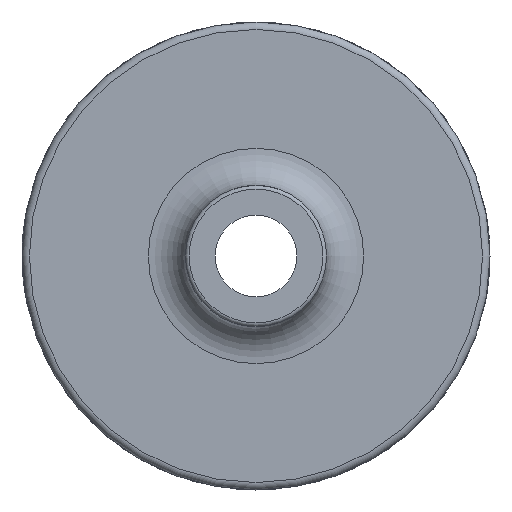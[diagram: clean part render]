
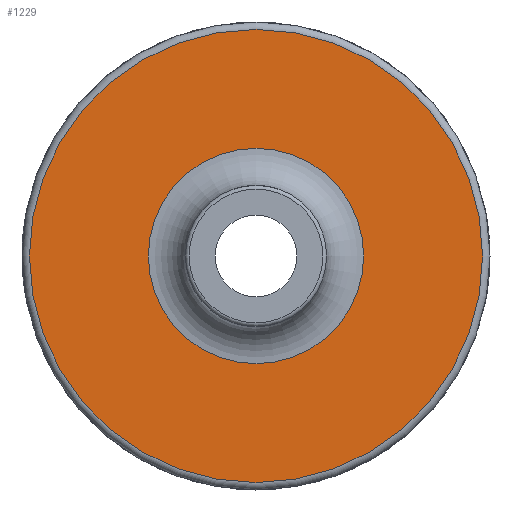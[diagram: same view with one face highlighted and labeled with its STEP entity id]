
A CAD part, front view. The second image highlights one B-rep face of the part: STEP entity #1229.
In plain terms, the highlighted planar face has unit normal (0, -1, 0).
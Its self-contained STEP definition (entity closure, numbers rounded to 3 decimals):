
#53=PLANE('',#1334);
#76=FACE_BOUND('',#253,.T.);
#93=CIRCLE('',#1332,14.5);
#95=CIRCLE('',#1335,30.5);
#174=FACE_OUTER_BOUND('',#252,.T.);
#252=EDGE_LOOP('',(#928));
#253=EDGE_LOOP('',(#929));
#546=VERTEX_POINT('',#2100);
#547=VERTEX_POINT('',#2104);
#687=EDGE_CURVE('',#546,#546,#93,.T.);
#689=EDGE_CURVE('',#547,#547,#95,.T.);
#928=ORIENTED_EDGE('',*,*,#689,.F.);
#929=ORIENTED_EDGE('',*,*,#687,.F.);
#1229=ADVANCED_FACE('',(#174,#76),#53,.T.);
#1332=AXIS2_PLACEMENT_3D('',#2101,#1524,#1525);
#1334=AXIS2_PLACEMENT_3D('',#2103,#1528,#1529);
#1335=AXIS2_PLACEMENT_3D('',#2105,#1530,#1531);
#1524=DIRECTION('center_axis',(0.,-1.,0.));
#1525=DIRECTION('ref_axis',(-1.,0.,0.));
#1528=DIRECTION('center_axis',(0.,-1.,0.));
#1529=DIRECTION('ref_axis',(0.,0.,-1.));
#1530=DIRECTION('center_axis',(0.,1.,0.));
#1531=DIRECTION('ref_axis',(-1.,0.,0.));
#2100=CARTESIAN_POINT('',(0.,72.6,14.5));
#2101=CARTESIAN_POINT('Origin',(0.,72.6,0.));
#2103=CARTESIAN_POINT('Origin',(9.5,72.6,0.));
#2104=CARTESIAN_POINT('',(0.,72.6,30.5));
#2105=CARTESIAN_POINT('Origin',(0.,72.6,0.));
